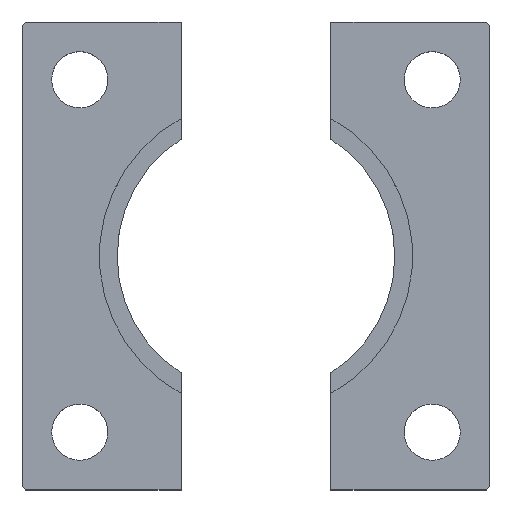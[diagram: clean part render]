
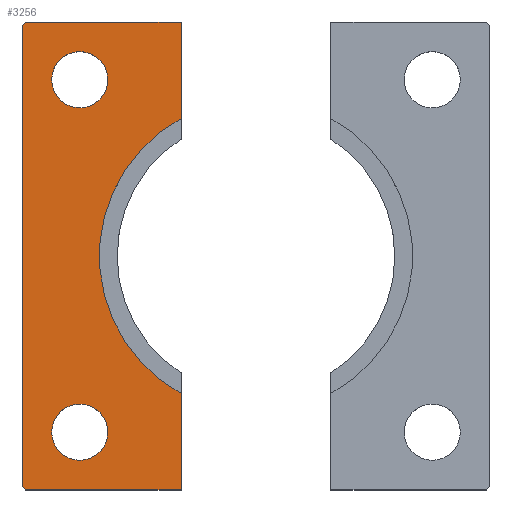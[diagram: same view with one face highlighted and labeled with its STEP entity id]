
A CAD part, top view. The second image highlights one B-rep face of the part: STEP entity #3256.
In plain terms, the highlighted planar face has unit normal (0, 0, 1).
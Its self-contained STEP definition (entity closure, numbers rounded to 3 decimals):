
#272=FACE_BOUND('',#575,.T.);
#273=FACE_BOUND('',#576,.T.);
#296=PLANE('',#3465);
#389=FACE_OUTER_BOUND('',#574,.T.);
#574=EDGE_LOOP('',(#2258,#2259,#2260,#2261,#2262,#2263,#2264,#2265));
#575=EDGE_LOOP('',(#2266));
#576=EDGE_LOOP('',(#2267));
#781=CIRCLE('',#3462,25.1);
#783=CIRCLE('',#3466,4.5);
#784=CIRCLE('',#3467,4.5);
#800=LINE('',#4140,#1112);
#801=LINE('',#4142,#1113);
#802=LINE('',#4144,#1114);
#803=LINE('',#4146,#1115);
#804=LINE('',#4148,#1116);
#805=LINE('',#4150,#1117);
#806=LINE('',#4151,#1118);
#1112=VECTOR('',#3594,10.);
#1113=VECTOR('',#3595,10.);
#1114=VECTOR('',#3596,10.);
#1115=VECTOR('',#3597,10.);
#1116=VECTOR('',#3598,10.);
#1117=VECTOR('',#3599,10.);
#1118=VECTOR('',#3600,10.);
#1421=VERTEX_POINT('',#4125);
#1423=VERTEX_POINT('',#4129);
#1426=VERTEX_POINT('',#4139);
#1427=VERTEX_POINT('',#4141);
#1428=VERTEX_POINT('',#4143);
#1429=VERTEX_POINT('',#4145);
#1430=VERTEX_POINT('',#4147);
#1431=VERTEX_POINT('',#4149);
#1432=VERTEX_POINT('',#4152);
#1433=VERTEX_POINT('',#4154);
#1755=EDGE_CURVE('',#1421,#1423,#781,.T.);
#1759=EDGE_CURVE('',#1426,#1423,#800,.T.);
#1760=EDGE_CURVE('',#1427,#1426,#801,.T.);
#1761=EDGE_CURVE('',#1428,#1427,#802,.T.);
#1762=EDGE_CURVE('',#1429,#1428,#803,.T.);
#1763=EDGE_CURVE('',#1430,#1429,#804,.T.);
#1764=EDGE_CURVE('',#1431,#1430,#805,.T.);
#1765=EDGE_CURVE('',#1421,#1431,#806,.T.);
#1766=EDGE_CURVE('',#1432,#1432,#783,.T.);
#1767=EDGE_CURVE('',#1433,#1433,#784,.T.);
#2258=ORIENTED_EDGE('',*,*,#1755,.T.);
#2259=ORIENTED_EDGE('',*,*,#1759,.F.);
#2260=ORIENTED_EDGE('',*,*,#1760,.F.);
#2261=ORIENTED_EDGE('',*,*,#1761,.F.);
#2262=ORIENTED_EDGE('',*,*,#1762,.F.);
#2263=ORIENTED_EDGE('',*,*,#1763,.F.);
#2264=ORIENTED_EDGE('',*,*,#1764,.F.);
#2265=ORIENTED_EDGE('',*,*,#1765,.F.);
#2266=ORIENTED_EDGE('',*,*,#1766,.T.);
#2267=ORIENTED_EDGE('',*,*,#1767,.T.);
#3256=ADVANCED_FACE('',(#389,#272,#273),#296,.T.);
#3462=AXIS2_PLACEMENT_3D('',#4131,#3584,#3585);
#3465=AXIS2_PLACEMENT_3D('',#4138,#3592,#3593);
#3466=AXIS2_PLACEMENT_3D('',#4153,#3601,#3602);
#3467=AXIS2_PLACEMENT_3D('',#4155,#3603,#3604);
#3584=DIRECTION('center_axis',(0.,0.,-1.));
#3585=DIRECTION('ref_axis',(-1.,0.,0.));
#3592=DIRECTION('center_axis',(0.,0.,1.));
#3593=DIRECTION('ref_axis',(1.,0.,0.));
#3594=DIRECTION('',(0.,-1.,0.));
#3595=DIRECTION('',(1.,0.,0.));
#3596=DIRECTION('',(0.707,0.707,0.));
#3597=DIRECTION('',(0.,1.,0.));
#3598=DIRECTION('',(-0.707,0.707,0.));
#3599=DIRECTION('',(-1.,0.,0.));
#3600=DIRECTION('',(0.,-1.,0.));
#3601=DIRECTION('center_axis',(0.,0.,-1.));
#3602=DIRECTION('ref_axis',(-1.,0.,0.));
#3603=DIRECTION('center_axis',(0.,0.,-1.));
#3604=DIRECTION('ref_axis',(-1.,0.,0.));
#4125=CARTESIAN_POINT('',(-12.,-22.046,12.));
#4129=CARTESIAN_POINT('',(-12.,22.046,12.));
#4131=CARTESIAN_POINT('Origin',(0.,0.,12.));
#4138=CARTESIAN_POINT('Origin',(-24.712,0.,
12.));
#4139=CARTESIAN_POINT('',(-12.,37.5,12.));
#4140=CARTESIAN_POINT('',(-12.,-37.5,12.));
#4141=CARTESIAN_POINT('',(-37.,37.5,12.));
#4142=CARTESIAN_POINT('',(-12.,37.5,12.));
#4143=CARTESIAN_POINT('',(-37.5,37.,12.));
#4144=CARTESIAN_POINT('',(-37.,37.5,12.));
#4145=CARTESIAN_POINT('',(-37.5,-37.,12.));
#4146=CARTESIAN_POINT('',(-37.5,37.,12.));
#4147=CARTESIAN_POINT('',(-37.,-37.5,12.));
#4148=CARTESIAN_POINT('',(-37.5,-37.,12.));
#4149=CARTESIAN_POINT('',(-12.,-37.5,12.));
#4150=CARTESIAN_POINT('',(-37.,-37.5,12.));
#4151=CARTESIAN_POINT('',(-12.,-37.5,12.));
#4152=CARTESIAN_POINT('',(-23.75,-28.25,12.));
#4153=CARTESIAN_POINT('Origin',(-28.25,-28.25,12.));
#4154=CARTESIAN_POINT('',(-23.75,28.25,12.));
#4155=CARTESIAN_POINT('Origin',(-28.25,28.25,12.));
